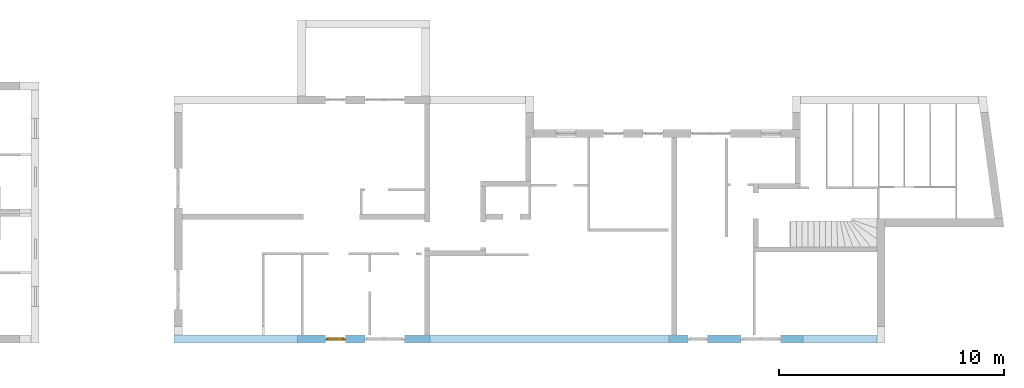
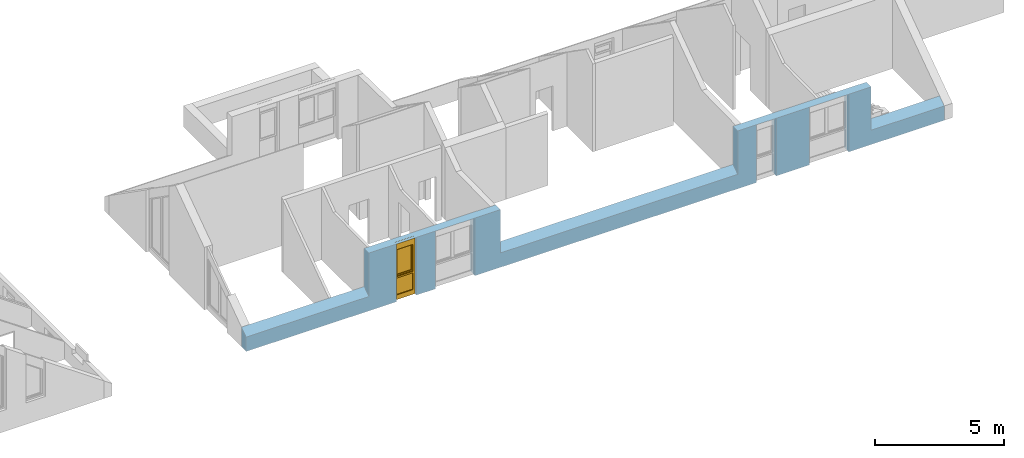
# One storey, part 16 of 23: 1 window, 4 openings, plus 1 element that does not belong to this part.
"""IFC2X3 building model written with IfcOpenShell, lengths in millimetres."""

from ifc_helpers import new_model, entity, si_unit, converted_unit, frame, frame_2d, origin, origin_with_axes, place, context, subcontext, project, spatial, polyline, rectangle, extrude, clip, bounded_halfspace, faceted_brep, material, layer, layer_set, layer_usage, type_object, element, fill, save


model = new_model("IFC2X3")

# Units and contexts
model_context = context("Model", 3, precision=1e-05, world=origin())
body_context = subcontext(model_context, "Body", "Model", "MODEL_VIEW")
ifc_project = project(units=[si_unit("LENGTHUNIT", "METRE", prefix="MILLI"), converted_unit("PLANEANGLEUNIT", "DEGREE", entity("IfcPlaneAngleMeasure", 0.0174532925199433), si_unit("PLANEANGLEUNIT", "RADIAN"), dimensions=[0, 0, 0, 0, 0, 0, 0]), si_unit("AREAUNIT", "SQUARE_METRE"), si_unit("VOLUMEUNIT", "CUBIC_METRE")], contexts=[model_context])

# Building, storey
building_placement = place(None, origin())
building = spatial("IfcBuilding", under=ifc_project, at=building_placement, Name="Gebäude", CompositionType="ELEMENT")
storey_placement = place(building_placement, frame((0.0, 0.0, 5580.0), z_axis=(0.0, 0.0, 1.0), x_axis=(1.0, 0.0, 0.0)))
storey = spatial("IfcBuildingStorey", under=building, at=storey_placement, Name="DG.- Grundriss", CompositionType="ELEMENT", Elevation=5580.0)

# Wall, openings, window
ifc_material_1 = material(Name="Poroton")
ifc_layer = layer(ifc_material_1, 365.0000000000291)
ifc_layer_set = layer_set([ifc_layer])
ifc_layer_usage = layer_usage(ifc_layer_set, "AXIS2", "POSITIVE", 0.0)
wall_placement = place(storey_placement, frame((148357.7928067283, 125274.8877324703, 0.0), z_axis=(0.0, 0.0, 1.0), x_axis=(0.9999999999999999, -2.74927920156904e-11, 0.0)))
wall = element("IfcWallStandardCase", 1, at=wall_placement, inside=storey, material=ifc_layer_usage, Name="<Unnamed Element>", context=body_context, shape_type="Clipping", body=[
    clip(clip(clip(clip(clip(extrude(rectangle(XDim=31280.0, YDim=365.0000000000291, at=frame_2d((15640.0, 182.5000000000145), x_axis=(1.0, 0.0))), origin_with_axes(), (0.0, 0.0, 1.0), 2741.54564934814), bounded_halfspace(frame((11384.99999998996, 365.0000000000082, 935.575751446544), z_axis=(-4.302969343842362e-16, 0.5735764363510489, -0.8191520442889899), x_axis=(2.252077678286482e-11, -0.8191520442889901, -0.5735764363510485)), True, origin(), polyline([(11384.99999998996, 365.0000000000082), (11385.0, -6.259463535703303e-12), (22024.99999860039, -5.552375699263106e-12), (22024.99999859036, 365.0000000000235), (11384.99999998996, 365.0000000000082)]))), bounded_halfspace(frame((5499.999999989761, 365.0000000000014, 935.5757514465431), z_axis=(-4.317638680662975e-16, 0.5735764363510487, -0.81915204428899), x_axis=(-1.0, -2.90124792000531e-15, -1.488264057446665e-15)), True, origin(), polyline([(5499.999999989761, 365.0000000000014), (-1.00348690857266e-08, 364.9999999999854), (0.0, 0.0), (5499.999999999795, 1.404948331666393e-12), (5499.999999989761, 365.0000000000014)]))), bounded_halfspace(frame((27999.99999998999, 365.0000000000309, 935.5757514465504), z_axis=(-2.419408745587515e-16, 0.5735764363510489, -0.81915204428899), x_axis=(2.252077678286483e-11, -0.8191520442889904, -0.5735764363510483)), True, origin(), polyline([(27999.99999998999, 365.0000000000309), (28000.00000000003, 1.86085872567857e-12), (31280.0, 0.0), (31279.99999998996, 365.0000000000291), (27999.99999998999, 365.0000000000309)]))), bounded_halfspace(frame((22024.99999859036, 365.0000000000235, 2741.54564934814), z_axis=(-4.801921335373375e-13, 0.01745240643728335, -0.9998476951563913), x_axis=(2.748860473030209e-11, -0.9998476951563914, -0.01745240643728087)), True, origin(), polyline([(22024.99999859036, 365.0000000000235), (22024.99999860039, -5.552375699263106e-12), (28000.00000000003, 1.86085872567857e-12), (27999.99999998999, 365.0000000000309), (22024.99999859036, 365.0000000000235)]))), bounded_halfspace(frame((5499.999999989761, 365.0000000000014, 2741.545649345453), z_axis=(-4.796320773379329e-13, 0.01745240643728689, -0.9998476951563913), x_axis=(2.748860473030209e-11, -0.9998476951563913, -0.01745240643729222)), True, origin(), polyline([(5499.999999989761, 365.0000000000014), (5499.999999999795, 1.404948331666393e-12), (11385.0, -6.259463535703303e-12), (11384.99999998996, 365.0000000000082), (5499.999999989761, 365.0000000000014)]))),
])
opening_1_placement = place(wall_placement, frame((8489.999999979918, -3.477907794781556e-11, 0.0), z_axis=(0.0, 1.0, 0.0), x_axis=(0.0, 0.0, 1.0)))
element("IfcOpeningElement", 2, at=opening_1_placement, cuts=wall, Name="Fensteröffnung", ObjectType="Opening", context=body_context, shape_type="SweptSolid", body=[
    extrude(rectangle(XDim=2735.174550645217, YDim=1760.0, at=frame_2d((1367.587275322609, 880.0), x_axis=(1.0, 0.0))), origin_with_axes(), (0.0, 0.0, 1.0), 365.0),
])
opening_2_placement = place(wall_placement, frame((25240.29648749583, -1.030266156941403e-10, 0.0), z_axis=(0.0, 1.0, 0.0), x_axis=(0.0, 0.0, 1.0)))
element("IfcOpeningElement", 3, at=opening_2_placement, cuts=wall, Name="Fensteröffnung", ObjectType="Opening", context=body_context, shape_type="SweptSolid", body=[
    extrude(rectangle(XDim=2735.174550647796, YDim=1760.0, at=frame_2d((1367.587275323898, 880.0), x_axis=(1.0, 0.0))), origin_with_axes(), (0.0, 0.0, 1.0), 365.0000000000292),
])
opening_3_placement = place(wall_placement, frame((6739.999999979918, -3.114109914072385e-11, 0.0), z_axis=(0.0, 1.0, 0.0), x_axis=(0.0, 0.0, 1.0)))
opening_3 = element("IfcOpeningElement", 4, at=opening_3_placement, cuts=wall, Name="Fensteröffnung", ObjectType="Opening", context=body_context, shape_type="SweptSolid", body=[
    extrude(rectangle(XDim=2735.174550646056, YDim=885.0, at=frame_2d((1367.587275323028, 442.5), x_axis=(1.0, 0.0))), origin_with_axes(), (0.0, 0.0, 1.0), 365.0000000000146),
])
opening_4_placement = place(wall_placement, frame((22865.29648749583, -9.393166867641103e-11, 0.0), z_axis=(0.0, 1.0, 0.0), x_axis=(0.0, 0.0, 1.0)))
element("IfcOpeningElement", 5, at=opening_4_placement, cuts=wall, Name="Fensteröffnung", ObjectType="Opening", context=body_context, shape_type="SweptSolid", body=[
    extrude(rectangle(XDim=2735.174550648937, YDim=885.0, at=frame_2d((1367.587275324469, 442.5), x_axis=(1.0, 0.0))), origin_with_axes(), (0.0, 0.0, 1.0), 365.0000000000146),
])
ifc_material_2 = material()
window_style = type_object("IfcWindowStyle", Name="Fenster", ConstructionType="NOTDEFINED", OperationType="USERDEFINED", ParameterTakesPrecedence=False, Sizeable=False)
window_placement = place(opening_3_placement, frame((0.0, 0.0, 0.0), z_axis=(1.0, 0.0, 0.0), x_axis=(0.0, 1.0, 0.0)))
window = element("IfcWindow", 6, at=window_placement, inside=storey, type_object=window_style, material=ifc_material_2, Name="Fenster", OverallHeight=2741.545649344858, OverallWidth=885.0, context=body_context, shape_type="Brep", body=[
    faceted_brep([(885.0000000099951, 200.0000000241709, 2737.269158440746), (815.0000000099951, 200.0000000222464, 2737.269158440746), (815.0000000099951, 200.0000000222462, -2.449293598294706e-15), (885.0000000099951, 200.0000000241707, -2.449293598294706e-15), (885.0000000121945, 120.0000000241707, 2.449293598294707e-15), (815.0000000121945, 120.0000000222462, 2.449293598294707e-15), (815.0000000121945, 120.0000000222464, 2737.269158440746), (885.0000000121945, 120.0000000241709, 2737.269158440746), (885.0000000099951, 200.0000000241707, -2.449293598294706e-15), (885.0000000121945, 120.0000000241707, 2.449293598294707e-15), (885.0000000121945, 120.0000000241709, 2737.269158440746), (885.0000000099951, 200.0000000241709, 2737.269158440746), (815.0000000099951, 200.0000000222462, -2.449293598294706e-15), (815.0000000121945, 120.0000000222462, 2.449293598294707e-15), (885.0000000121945, 120.0000000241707, 2.449293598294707e-15), (885.0000000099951, 200.0000000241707, -2.449293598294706e-15), (815.0000000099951, 200.0000000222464, 2737.269158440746), (815.0000000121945, 120.0000000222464, 2737.269158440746), (815.0000000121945, 120.0000000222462, 2.449293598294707e-15), (815.0000000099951, 200.0000000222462, -2.449293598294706e-15), (885.0000000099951, 200.0000000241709, 2737.269158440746), (885.0000000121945, 120.0000000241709, 2737.269158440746), (815.0000000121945, 120.0000000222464, 2737.269158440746), (815.0000000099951, 200.0000000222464, 2737.269158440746)], [[[0, 1, 2, 3]], [[4, 5, 6, 7]], [[8, 9, 10, 11]], [[12, 13, 14, 15]], [[16, 17, 18, 19]], [[20, 21, 22, 23]]], orient=[[False], [False], [False], [False], [False], [False]]),
    faceted_brep([(69.99999999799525, 200.0000000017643, 2737.269158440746), (-2.004753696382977e-09, 199.9999999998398, 2737.269158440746), (-2.004753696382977e-09, 199.9999999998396, -2.449293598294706e-15), (69.99999999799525, 200.0000000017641, -2.449293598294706e-15), (70.00000000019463, 120.0000000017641, 2.449293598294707e-15), (1.946318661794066e-10, 119.9999999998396, 2.449293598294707e-15), (1.946318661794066e-10, 119.9999999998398, 2737.269158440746), (70.00000000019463, 120.0000000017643, 2737.269158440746), (69.99999999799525, 200.0000000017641, -2.449293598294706e-15), (70.00000000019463, 120.0000000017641, 2.449293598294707e-15), (70.00000000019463, 120.0000000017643, 2737.269158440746), (69.99999999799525, 200.0000000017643, 2737.269158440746), (-2.004753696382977e-09, 199.9999999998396, -2.449293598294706e-15), (1.946318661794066e-10, 119.9999999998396, 2.449293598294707e-15), (70.00000000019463, 120.0000000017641, 2.449293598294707e-15), (69.99999999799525, 200.0000000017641, -2.449293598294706e-15), (-2.004753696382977e-09, 199.9999999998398, 2737.269158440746), (1.946318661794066e-10, 119.9999999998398, 2737.269158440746), (1.946318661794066e-10, 119.9999999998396, 2.449293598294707e-15), (-2.004753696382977e-09, 199.9999999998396, -2.449293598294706e-15), (69.99999999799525, 200.0000000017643, 2737.269158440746), (70.00000000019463, 120.0000000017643, 2737.269158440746), (1.946318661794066e-10, 119.9999999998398, 2737.269158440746), (-2.004753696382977e-09, 199.9999999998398, 2737.269158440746)], [[[0, 1, 2, 3]], [[4, 5, 6, 7]], [[8, 9, 10, 11]], [[12, 13, 14, 15]], [[16, 17, 18, 19]], [[20, 21, 22, 23]]], orient=[[False], [False], [False], [False], [False], [False]]),
    faceted_brep([(815.0000000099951, 200.0000000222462, 220.0), (69.99999999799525, 200.0000000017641, 220.0), (69.99999999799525, 200.0000000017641, -2.449293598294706e-15), (815.0000000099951, 200.0000000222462, -2.449293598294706e-15), (815.0000000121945, 120.0000000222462, 2.449293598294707e-15), (70.00000000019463, 120.0000000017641, 2.449293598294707e-15), (70.00000000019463, 120.0000000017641, 220.0), (815.0000000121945, 120.0000000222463, 220.0), (815.0000000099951, 200.0000000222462, -2.449293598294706e-15), (815.0000000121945, 120.0000000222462, 2.449293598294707e-15), (815.0000000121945, 120.0000000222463, 220.0), (815.0000000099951, 200.0000000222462, 220.0), (69.99999999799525, 200.0000000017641, -2.449293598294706e-15), (70.00000000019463, 120.0000000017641, 2.449293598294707e-15), (815.0000000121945, 120.0000000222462, 2.449293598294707e-15), (815.0000000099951, 200.0000000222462, -2.449293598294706e-15), (69.99999999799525, 200.0000000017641, 220.0), (70.00000000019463, 120.0000000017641, 220.0), (70.00000000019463, 120.0000000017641, 2.449293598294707e-15), (69.99999999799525, 200.0000000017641, -2.449293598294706e-15), (815.0000000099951, 200.0000000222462, 220.0), (815.0000000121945, 120.0000000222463, 220.0), (70.00000000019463, 120.0000000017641, 220.0), (69.99999999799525, 200.0000000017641, 220.0)], [[[0, 1, 2, 3]], [[4, 5, 6, 7]], [[8, 9, 10, 11]], [[12, 13, 14, 15]], [[16, 17, 18, 19]], [[20, 21, 22, 23]]], orient=[[False], [False], [False], [False], [False], [False]]),
    faceted_brep([(815.0000000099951, 200.0000000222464, 2737.269158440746), (69.99999999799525, 200.0000000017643, 2737.269158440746), (69.99999999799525, 200.0000000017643, 2367.269158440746), (815.0000000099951, 200.0000000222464, 2367.269158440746), (815.0000000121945, 120.0000000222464, 2367.269158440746), (70.00000000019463, 120.0000000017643, 2367.269158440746), (70.00000000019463, 120.0000000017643, 2737.269158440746), (815.0000000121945, 120.0000000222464, 2737.269158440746), (815.0000000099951, 200.0000000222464, 2367.269158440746), (815.0000000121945, 120.0000000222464, 2367.269158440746), (815.0000000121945, 120.0000000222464, 2737.269158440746), (815.0000000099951, 200.0000000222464, 2737.269158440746), (69.99999999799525, 200.0000000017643, 2367.269158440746), (70.00000000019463, 120.0000000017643, 2367.269158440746), (815.0000000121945, 120.0000000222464, 2367.269158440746), (815.0000000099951, 200.0000000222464, 2367.269158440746), (69.99999999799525, 200.0000000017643, 2737.269158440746), (70.00000000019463, 120.0000000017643, 2737.269158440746), (70.00000000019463, 120.0000000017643, 2367.269158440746), (69.99999999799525, 200.0000000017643, 2367.269158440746), (815.0000000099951, 200.0000000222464, 2737.269158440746), (815.0000000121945, 120.0000000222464, 2737.269158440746), (70.00000000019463, 120.0000000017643, 2737.269158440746), (69.99999999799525, 200.0000000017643, 2737.269158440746)], [[[0, 1, 2, 3]], [[4, 5, 6, 7]], [[8, 9, 10, 11]], [[12, 13, 14, 15]], [[16, 17, 18, 19]], [[20, 21, 22, 23]]], orient=[[False], [False], [False], [False], [False], [False]]),
    faceted_brep([(815.0000000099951, 200.0000000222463, 1090.0), (69.99999999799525, 200.0000000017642, 1090.0), (69.99999999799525, 200.0000000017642, 1020.0), (815.0000000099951, 200.0000000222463, 1020.0), (815.0000000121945, 120.0000000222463, 1020.0), (70.00000000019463, 120.0000000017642, 1020.0), (70.00000000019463, 120.0000000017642, 1090.0), (815.0000000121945, 120.0000000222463, 1090.0), (815.0000000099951, 200.0000000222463, 1020.0), (815.0000000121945, 120.0000000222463, 1020.0), (815.0000000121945, 120.0000000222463, 1090.0), (815.0000000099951, 200.0000000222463, 1090.0), (69.99999999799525, 200.0000000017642, 1020.0), (70.00000000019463, 120.0000000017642, 1020.0), (815.0000000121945, 120.0000000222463, 1020.0), (815.0000000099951, 200.0000000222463, 1020.0), (69.99999999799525, 200.0000000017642, 1090.0), (70.00000000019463, 120.0000000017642, 1090.0), (70.00000000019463, 120.0000000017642, 1020.0), (69.99999999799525, 200.0000000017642, 1020.0), (815.0000000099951, 200.0000000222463, 1090.0), (815.0000000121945, 120.0000000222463, 1090.0), (70.00000000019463, 120.0000000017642, 1090.0), (69.99999999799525, 200.0000000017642, 1090.0)], [[[0, 1, 2, 3]], [[4, 5, 6, 7]], [[8, 9, 10, 11]], [[12, 13, 14, 15]], [[16, 17, 18, 19]], [[20, 21, 22, 23]]], orient=[[False], [False], [False], [False], [False], [False]]),
    faceted_brep([(815.0000000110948, 160.0000000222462, 220.0), (815.0000000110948, 160.0000000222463, 1020.0), (69.99999999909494, 160.0000000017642, 1020.0), (69.99999999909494, 160.0000000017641, 220.0), (815.0000000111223, 159.0000000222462, 220.0), (69.99999999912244, 159.0000000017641, 220.0), (69.99999999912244, 159.0000000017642, 1020.0), (815.0000000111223, 159.0000000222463, 1020.0), (815.0000000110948, 160.0000000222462, 220.0), (815.0000000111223, 159.0000000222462, 220.0), (815.0000000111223, 159.0000000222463, 1020.0), (815.0000000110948, 160.0000000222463, 1020.0), (815.0000000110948, 160.0000000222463, 1020.0), (815.0000000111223, 159.0000000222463, 1020.0), (69.99999999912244, 159.0000000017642, 1020.0), (69.99999999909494, 160.0000000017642, 1020.0), (69.99999999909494, 160.0000000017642, 1020.0), (69.99999999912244, 159.0000000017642, 1020.0), (69.99999999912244, 159.0000000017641, 220.0), (69.99999999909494, 160.0000000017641, 220.0), (69.99999999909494, 160.0000000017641, 220.0), (69.99999999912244, 159.0000000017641, 220.0), (815.0000000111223, 159.0000000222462, 220.0), (815.0000000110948, 160.0000000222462, 220.0)], [[[0, 1, 2, 3]], [[4, 5, 6, 7]], [[8, 9, 10, 11]], [[12, 13, 14, 15]], [[16, 17, 18, 19]], [[20, 21, 22, 23]]], orient=[[False], [False], [False], [False], [False], [False]]),
    faceted_brep([(835.0000000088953, 240.0000000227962, 2387.269158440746), (765.0000000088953, 240.0000000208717, 2387.269158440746), (765.0000000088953, 240.0000000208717, 1070.0), (835.0000000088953, 240.0000000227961, 1070.0), (835.0000000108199, 170.0000000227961, 1070.0), (765.0000000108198, 170.0000000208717, 1070.0), (765.0000000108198, 170.0000000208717, 2387.269158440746), (835.0000000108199, 170.0000000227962, 2387.269158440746), (835.0000000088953, 240.0000000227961, 1070.0), (835.0000000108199, 170.0000000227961, 1070.0), (835.0000000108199, 170.0000000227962, 2387.269158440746), (835.0000000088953, 240.0000000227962, 2387.269158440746), (765.0000000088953, 240.0000000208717, 1070.0), (765.0000000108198, 170.0000000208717, 1070.0), (835.0000000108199, 170.0000000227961, 1070.0), (835.0000000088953, 240.0000000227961, 1070.0), (765.0000000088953, 240.0000000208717, 2387.269158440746), (765.0000000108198, 170.0000000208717, 2387.269158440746), (765.0000000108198, 170.0000000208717, 1070.0), (765.0000000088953, 240.0000000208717, 1070.0), (835.0000000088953, 240.0000000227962, 2387.269158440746), (835.0000000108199, 170.0000000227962, 2387.269158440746), (765.0000000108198, 170.0000000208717, 2387.269158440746), (765.0000000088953, 240.0000000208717, 2387.269158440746)], [[[0, 1, 2, 3]], [[4, 5, 6, 7]], [[8, 9, 10, 11]], [[12, 13, 14, 15]], [[16, 17, 18, 19]], [[20, 21, 22, 23]]], orient=[[False], [False], [False], [False], [False], [False]]),
    faceted_brep([(119.9999999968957, 240.0000000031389, 2387.269158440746), (49.99999999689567, 240.0000000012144, 2387.269158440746), (49.99999999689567, 240.0000000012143, 1070.0), (119.9999999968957, 240.0000000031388, 1070.0), (119.9999999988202, 170.0000000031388, 1070.0), (49.99999999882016, 170.0000000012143, 1070.0), (49.99999999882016, 170.0000000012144, 2387.269158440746), (119.9999999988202, 170.0000000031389, 2387.269158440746), (119.9999999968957, 240.0000000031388, 1070.0), (119.9999999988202, 170.0000000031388, 1070.0), (119.9999999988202, 170.0000000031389, 2387.269158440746), (119.9999999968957, 240.0000000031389, 2387.269158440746), (49.99999999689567, 240.0000000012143, 1070.0), (49.99999999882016, 170.0000000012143, 1070.0), (119.9999999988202, 170.0000000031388, 1070.0), (119.9999999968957, 240.0000000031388, 1070.0), (49.99999999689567, 240.0000000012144, 2387.269158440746), (49.99999999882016, 170.0000000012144, 2387.269158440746), (49.99999999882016, 170.0000000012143, 1070.0), (49.99999999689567, 240.0000000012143, 1070.0), (119.9999999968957, 240.0000000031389, 2387.269158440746), (119.9999999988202, 170.0000000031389, 2387.269158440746), (49.99999999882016, 170.0000000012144, 2387.269158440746), (49.99999999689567, 240.0000000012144, 2387.269158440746)], [[[0, 1, 2, 3]], [[4, 5, 6, 7]], [[8, 9, 10, 11]], [[12, 13, 14, 15]], [[16, 17, 18, 19]], [[20, 21, 22, 23]]], orient=[[False], [False], [False], [False], [False], [False]]),
    faceted_brep([(765.0000000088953, 240.0000000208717, 1140.0), (119.9999999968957, 240.0000000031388, 1140.0), (119.9999999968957, 240.0000000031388, 1070.0), (765.0000000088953, 240.0000000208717, 1070.0), (765.0000000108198, 170.0000000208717, 1070.0), (119.9999999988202, 170.0000000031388, 1070.0), (119.9999999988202, 170.0000000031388, 1140.0), (765.0000000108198, 170.0000000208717, 1140.0), (765.0000000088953, 240.0000000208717, 1070.0), (765.0000000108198, 170.0000000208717, 1070.0), (765.0000000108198, 170.0000000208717, 1140.0), (765.0000000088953, 240.0000000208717, 1140.0), (119.9999999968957, 240.0000000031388, 1070.0), (119.9999999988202, 170.0000000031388, 1070.0), (765.0000000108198, 170.0000000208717, 1070.0), (765.0000000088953, 240.0000000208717, 1070.0), (119.9999999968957, 240.0000000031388, 1140.0), (119.9999999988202, 170.0000000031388, 1140.0), (119.9999999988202, 170.0000000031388, 1070.0), (119.9999999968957, 240.0000000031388, 1070.0), (765.0000000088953, 240.0000000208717, 1140.0), (765.0000000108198, 170.0000000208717, 1140.0), (119.9999999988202, 170.0000000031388, 1140.0), (119.9999999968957, 240.0000000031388, 1140.0)], [[[0, 1, 2, 3]], [[4, 5, 6, 7]], [[8, 9, 10, 11]], [[12, 13, 14, 15]], [[16, 17, 18, 19]], [[20, 21, 22, 23]]], orient=[[False], [False], [False], [False], [False], [False]]),
    faceted_brep([(765.0000000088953, 240.0000000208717, 2387.269158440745), (119.9999999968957, 240.0000000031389, 2387.269158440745), (119.9999999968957, 240.0000000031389, 2317.269158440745), (765.0000000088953, 240.0000000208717, 2317.269158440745), (765.0000000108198, 170.0000000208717, 2317.269158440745), (119.9999999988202, 170.0000000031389, 2317.269158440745), (119.9999999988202, 170.0000000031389, 2387.269158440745), (765.0000000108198, 170.0000000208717, 2387.269158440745), (765.0000000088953, 240.0000000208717, 2317.269158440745), (765.0000000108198, 170.0000000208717, 2317.269158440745), (765.0000000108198, 170.0000000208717, 2387.269158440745), (765.0000000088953, 240.0000000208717, 2387.269158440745), (119.9999999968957, 240.0000000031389, 2317.269158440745), (119.9999999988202, 170.0000000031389, 2317.269158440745), (765.0000000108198, 170.0000000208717, 2317.269158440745), (765.0000000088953, 240.0000000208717, 2317.269158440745), (119.9999999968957, 240.0000000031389, 2387.269158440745), (119.9999999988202, 170.0000000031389, 2387.269158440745), (119.9999999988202, 170.0000000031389, 2317.269158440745), (119.9999999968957, 240.0000000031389, 2317.269158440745), (765.0000000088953, 240.0000000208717, 2387.269158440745), (765.0000000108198, 170.0000000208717, 2387.269158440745), (119.9999999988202, 170.0000000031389, 2387.269158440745), (119.9999999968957, 240.0000000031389, 2387.269158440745)], [[[0, 1, 2, 3]], [[4, 5, 6, 7]], [[8, 9, 10, 11]], [[12, 13, 14, 15]], [[16, 17, 18, 19]], [[20, 21, 22, 23]]], orient=[[False], [False], [False], [False], [False], [False]]),
    faceted_brep([(765.0000000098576, 205.0000000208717, 1140.0), (765.0000000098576, 205.0000000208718, 2317.269158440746), (119.9999999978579, 205.0000000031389, 2317.269158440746), (119.9999999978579, 205.0000000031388, 1140.0), (765.0000000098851, 204.0000000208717, 1140.0), (119.9999999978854, 204.0000000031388, 1140.0), (119.9999999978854, 204.0000000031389, 2317.269158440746), (765.0000000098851, 204.0000000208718, 2317.269158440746), (765.0000000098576, 205.0000000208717, 1140.0), (765.0000000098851, 204.0000000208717, 1140.0), (765.0000000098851, 204.0000000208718, 2317.269158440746), (765.0000000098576, 205.0000000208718, 2317.269158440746), (765.0000000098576, 205.0000000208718, 2317.269158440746), (765.0000000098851, 204.0000000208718, 2317.269158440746), (119.9999999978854, 204.0000000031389, 2317.269158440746), (119.9999999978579, 205.0000000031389, 2317.269158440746), (119.9999999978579, 205.0000000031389, 2317.269158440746), (119.9999999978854, 204.0000000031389, 2317.269158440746), (119.9999999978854, 204.0000000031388, 1140.0), (119.9999999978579, 205.0000000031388, 1140.0), (119.9999999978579, 205.0000000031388, 1140.0), (119.9999999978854, 204.0000000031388, 1140.0), (765.0000000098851, 204.0000000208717, 1140.0), (765.0000000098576, 205.0000000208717, 1140.0)], [[[0, 1, 2, 3]], [[4, 5, 6, 7]], [[8, 9, 10, 11]], [[12, 13, 14, 15]], [[16, 17, 18, 19]], [[20, 21, 22, 23]]], orient=[[False], [False], [False], [False], [False], [False]]),
])
fill(opening_3, window)

save(model, "model.ifc")
